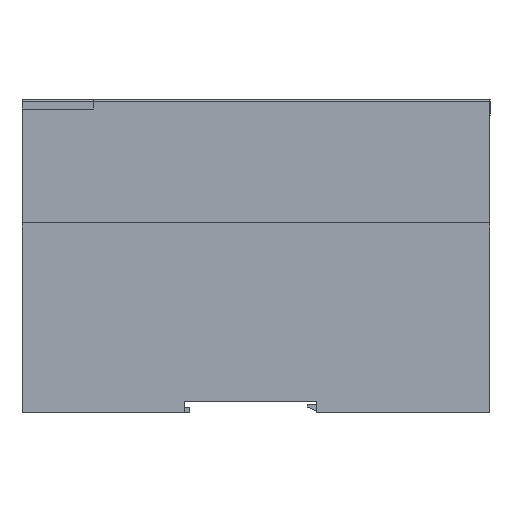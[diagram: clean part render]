
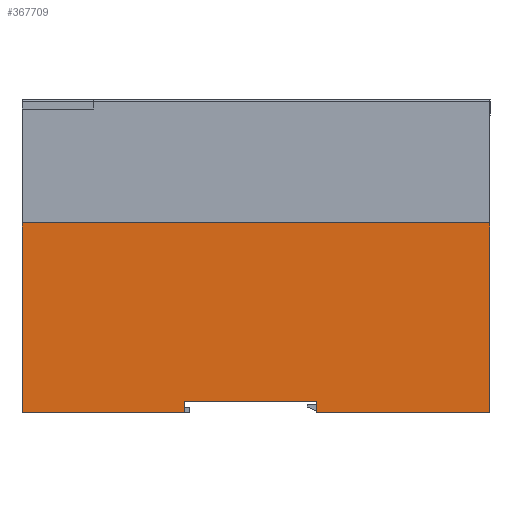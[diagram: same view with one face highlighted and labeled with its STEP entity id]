
A CAD part, left-side view. The second image highlights one B-rep face of the part: STEP entity #367709.
In plain terms, the highlighted planar face has unit normal (-1, 0, 0).
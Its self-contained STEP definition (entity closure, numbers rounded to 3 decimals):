
#2410 = VERTEX_POINT ( 'NONE', #252927 ) ;
#5178 = VERTEX_POINT ( 'NONE', #121930 ) ;
#6796 = VECTOR ( 'NONE', #323288, 1000. ) ;
#10522 = EDGE_CURVE ( 'NONE', #392283, #84252, #52460, .T. ) ;
#11551 = ORIENTED_EDGE ( 'NONE', *, *, #292896, .F. ) ;
#25157 = VECTOR ( 'NONE', #332501, 1000. ) ;
#43012 = LINE ( 'NONE', #387617, #387585 ) ;
#43391 = ORIENTED_EDGE ( 'NONE', *, *, #258830, .T. ) ;
#52460 = LINE ( 'NONE', #163208, #6796 ) ;
#59068 = VECTOR ( 'NONE', #267657, 1000. ) ;
#63682 = CARTESIAN_POINT ( 'NONE',  ( -41., 0., 83. ) ) ;
#75375 = LINE ( 'NONE', #210232, #95698 ) ;
#81817 = VERTEX_POINT ( 'NONE', #223905 ) ;
#84252 = VERTEX_POINT ( 'NONE', #197102 ) ;
#84254 = CARTESIAN_POINT ( 'NONE',  ( -41., 81., 3. ) ) ;
#95698 = VECTOR ( 'NONE', #241478, 1000. ) ;
#99055 = CARTESIAN_POINT ( 'NONE',  ( -41., 0., 0. ) ) ;
#101315 = CARTESIAN_POINT ( 'NONE',  ( -41., 124., 50.3 ) ) ;
#106014 = CARTESIAN_POINT ( 'NONE',  ( -41., 0., 0. ) ) ;
#111405 = LINE ( 'NONE', #106014, #25157 ) ;
#117145 = ORIENTED_EDGE ( 'NONE', *, *, #267606, .F. ) ;
#121930 = CARTESIAN_POINT ( 'NONE',  ( -41., 0., 50.3 ) ) ;
#122722 = ORIENTED_EDGE ( 'NONE', *, *, #10522, .F. ) ;
#129608 = DIRECTION ( 'NONE',  ( 0., -1., 0. ) ) ;
#149340 = ORIENTED_EDGE ( 'NONE', *, *, #150062, .T. ) ;
#150062 = EDGE_CURVE ( 'NONE', #308220, #81817, #111405, .T. ) ;
#155967 = EDGE_CURVE ( 'NONE', #321920, #308220, #289330, .T. ) ;
#163208 = CARTESIAN_POINT ( 'NONE',  ( -41., 81., 3. ) ) ;
#166884 = PLANE ( 'NONE',  #307652 ) ;
#191515 = VERTEX_POINT ( 'NONE', #99055 ) ;
#197102 = CARTESIAN_POINT ( 'NONE',  ( -41., 81., 3. ) ) ;
#198234 = VECTOR ( 'NONE', #343693, 1000. ) ;
#200887 = LINE ( 'NONE', #362653, #59068 ) ;
#204859 = ORIENTED_EDGE ( 'NONE', *, *, #314478, .F. ) ;
#210232 = CARTESIAN_POINT ( 'NONE',  ( -41., 0., 0. ) ) ;
#217342 = ORIENTED_EDGE ( 'NONE', *, *, #400960, .T. ) ;
#223905 = CARTESIAN_POINT ( 'NONE',  ( -41., 81., 0. ) ) ;
#232164 = LINE ( 'NONE', #84254, #414520 ) ;
#241478 = DIRECTION ( 'NONE',  ( 0., -1., 0. ) ) ;
#245657 = VECTOR ( 'NONE', #129608, 1000. ) ;
#246018 = CARTESIAN_POINT ( 'NONE',  ( -41., 124., 83. ) ) ;
#247016 = DIRECTION ( 'NONE',  ( 0., 0., -1. ) ) ;
#252927 = CARTESIAN_POINT ( 'NONE',  ( -41., 46., 0. ) ) ;
#258830 = EDGE_CURVE ( 'NONE', #392283, #2410, #43012, .T. ) ;
#260352 = DIRECTION ( 'NONE',  ( 0., 0., -1. ) ) ;
#263165 = DIRECTION ( 'NONE',  ( 1., 0., 0. ) ) ;
#267606 = EDGE_CURVE ( 'NONE', #84252, #81817, #232164, .T. ) ;
#267657 = DIRECTION ( 'NONE',  ( 0., 0., -1. ) ) ;
#268437 = FACE_OUTER_BOUND ( 'NONE', #388973, .T. ) ;
#289330 = LINE ( 'NONE', #246018, #198234 ) ;
#292896 = EDGE_CURVE ( 'NONE', #5178, #191515, #200887, .T. ) ;
#307652 = AXIS2_PLACEMENT_3D ( 'NONE', #63682, #263165, #260352 ) ;
#308220 = VERTEX_POINT ( 'NONE', #359584 ) ;
#314478 = EDGE_CURVE ( 'NONE', #321920, #5178, #331747, .T. ) ;
#321920 = VERTEX_POINT ( 'NONE', #101315 ) ;
#323288 = DIRECTION ( 'NONE',  ( 0., 1., 0. ) ) ;
#323617 = CARTESIAN_POINT ( 'NONE',  ( -41., 0., 50.3 ) ) ;
#331747 = LINE ( 'NONE', #323617, #245657 ) ;
#332501 = DIRECTION ( 'NONE',  ( 0., -1., 0. ) ) ;
#342160 = ORIENTED_EDGE ( 'NONE', *, *, #155967, .T. ) ;
#343693 = DIRECTION ( 'NONE',  ( 0., 0., -1. ) ) ;
#355085 = DIRECTION ( 'NONE',  ( 0., 0., -1. ) ) ;
#359584 = CARTESIAN_POINT ( 'NONE',  ( -41., 124., 0. ) ) ;
#362653 = CARTESIAN_POINT ( 'NONE',  ( -41., 0., 83. ) ) ;
#367709 = ADVANCED_FACE ( 'NONE', ( #268437 ), #166884, .F. ) ;
#387585 = VECTOR ( 'NONE', #355085, 1000. ) ;
#387617 = CARTESIAN_POINT ( 'NONE',  ( -41., 46., 3. ) ) ;
#388973 = EDGE_LOOP ( 'NONE', ( #204859, #342160, #149340, #117145, #122722, #43391, #217342, #11551 ) ) ;
#392283 = VERTEX_POINT ( 'NONE', #403653 ) ;
#400960 = EDGE_CURVE ( 'NONE', #2410, #191515, #75375, .T. ) ;
#403653 = CARTESIAN_POINT ( 'NONE',  ( -41., 46., 3. ) ) ;
#414520 = VECTOR ( 'NONE', #247016, 1000. ) ;
